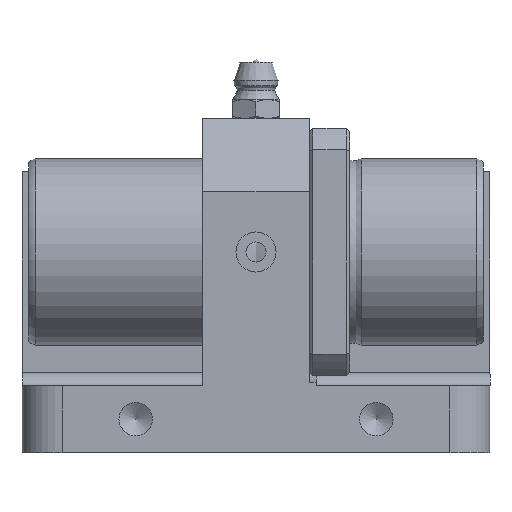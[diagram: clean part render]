
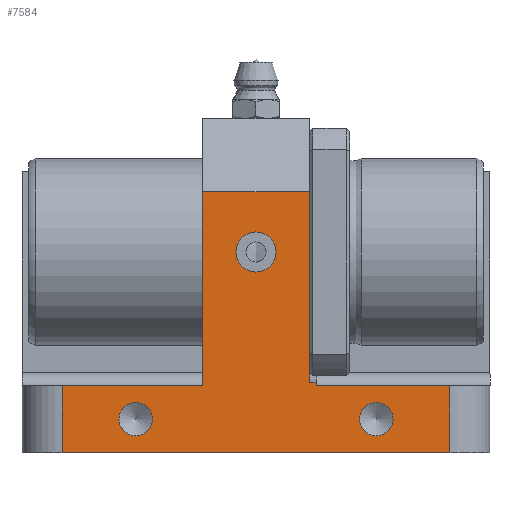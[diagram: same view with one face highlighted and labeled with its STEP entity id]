
A CAD part, front view. The second image highlights one B-rep face of the part: STEP entity #7584.
In plain terms, the highlighted planar face has unit normal (0, -1, 0).
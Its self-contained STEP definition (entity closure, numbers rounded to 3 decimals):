
#7438=CARTESIAN_POINT('',(64.0,-57.,10.0));
#7439=VERTEX_POINT('',#7438);
#7447=CARTESIAN_POINT('',(64.0,-57.,0.0));
#7448=VERTEX_POINT('',#7447);
#7449=CARTESIAN_POINT('',(64.0,-57.,10.0));
#7450=DIRECTION('',(0.0,0.0,-1.0));
#7451=VECTOR('',#7450,10.0);
#7452=LINE('',#7449,#7451);
#7453=EDGE_CURVE('',#7439,#7448,#7452,.T.);
#7473=CARTESIAN_POINT('',(70.0,-57.,0.0));
#7474=DIRECTION('',(0.0,-1.0,0.0));
#7475=DIRECTION('',(0.0,0.0,-1.0));
#7476=AXIS2_PLACEMENT_3D('',#7473,#7474,#7475);
#7477=PLANE('',#7476);
#7478=ORIENTED_EDGE('',*,*,#7453,.F.);
#7479=CARTESIAN_POINT('',(44.,-57.,10.0));
#7480=VERTEX_POINT('',#7479);
#7481=CARTESIAN_POINT('',(64.0,-57.,10.0));
#7482=DIRECTION('',(-1.0,0.0,0.0));
#7483=VECTOR('',#7482,20.);
#7484=LINE('',#7481,#7483);
#7485=EDGE_CURVE('',#7439,#7480,#7484,.T.);
#7486=ORIENTED_EDGE('',*,*,#7485,.T.);
#7487=CARTESIAN_POINT('',(44.,-57.,10.5));
#7488=VERTEX_POINT('',#7487);
#7489=CARTESIAN_POINT('',(44.,-57.,10.0));
#7490=DIRECTION('',(0.0,0.0,1.0));
#7491=VECTOR('',#7490,0.5);
#7492=LINE('',#7489,#7491);
#7493=EDGE_CURVE('',#7480,#7488,#7492,.T.);
#7494=ORIENTED_EDGE('',*,*,#7493,.T.);
#7495=CARTESIAN_POINT('',(43.0,-57.,10.5));
#7496=VERTEX_POINT('',#7495);
#7497=CARTESIAN_POINT('',(43.0,-57.,10.5));
#7498=DIRECTION('',(1.0,0.0,0.0));
#7499=VECTOR('',#7498,1.);
#7500=LINE('',#7497,#7499);
#7501=EDGE_CURVE('',#7496,#7488,#7500,.T.);
#7502=ORIENTED_EDGE('',*,*,#7501,.F.);
#7503=CARTESIAN_POINT('',(43.,-57.,39.0));
#7504=VERTEX_POINT('',#7503);
#7505=CARTESIAN_POINT('',(43.0,-57.,10.5));
#7506=DIRECTION('',(0.0,0.0,1.0));
#7507=VECTOR('',#7506,28.5);
#7508=LINE('',#7505,#7507);
#7509=EDGE_CURVE('',#7496,#7504,#7508,.T.);
#7510=ORIENTED_EDGE('',*,*,#7509,.T.);
#7511=CARTESIAN_POINT('',(27.,-57.0,39.0));
#7512=VERTEX_POINT('',#7511);
#7513=CARTESIAN_POINT('',(27.,-57.0,39.0));
#7514=DIRECTION('',(1.0,0.0,0.0));
#7515=VECTOR('',#7514,16.);
#7516=LINE('',#7513,#7515);
#7517=EDGE_CURVE('',#7512,#7504,#7516,.T.);
#7518=ORIENTED_EDGE('',*,*,#7517,.F.);
#7519=CARTESIAN_POINT('',(27.,-57.,10.0));
#7520=VERTEX_POINT('',#7519);
#7521=CARTESIAN_POINT('',(27.,-57.0,39.0));
#7522=DIRECTION('',(0.0,0.0,-1.0));
#7523=VECTOR('',#7522,29.0);
#7524=LINE('',#7521,#7523);
#7525=EDGE_CURVE('',#7512,#7520,#7524,.T.);
#7526=ORIENTED_EDGE('',*,*,#7525,.T.);
#7527=CARTESIAN_POINT('',(6.,-57.0,10.0));
#7528=VERTEX_POINT('',#7527);
#7529=CARTESIAN_POINT('',(27.,-57.,10.0));
#7530=DIRECTION('',(-1.0,0.0,0.0));
#7531=VECTOR('',#7530,21.);
#7532=LINE('',#7529,#7531);
#7533=EDGE_CURVE('',#7520,#7528,#7532,.T.);
#7534=ORIENTED_EDGE('',*,*,#7533,.T.);
#7535=CARTESIAN_POINT('',(6.,-57.0,0.0));
#7536=VERTEX_POINT('',#7535);
#7537=CARTESIAN_POINT('',(6.,-57.0,0.0));
#7538=DIRECTION('',(0.0,0.0,1.0));
#7539=VECTOR('',#7538,10.0);
#7540=LINE('',#7537,#7539);
#7541=EDGE_CURVE('',#7536,#7528,#7540,.T.);
#7542=ORIENTED_EDGE('',*,*,#7541,.F.);
#7543=CARTESIAN_POINT('',(6.,-57.0,0.0));
#7544=DIRECTION('',(1.0,0.0,0.0));
#7545=VECTOR('',#7544,58.);
#7546=LINE('',#7543,#7545);
#7547=EDGE_CURVE('',#7536,#7448,#7546,.T.);
#7548=ORIENTED_EDGE('',*,*,#7547,.T.);
#7549=EDGE_LOOP('',(#7478,#7486,#7494,#7502,#7510,#7518,#7526,#7534,#7542,#7548));
#7550=FACE_OUTER_BOUND('',#7549,.T.);
#7551=CARTESIAN_POINT('',(55.5,-57.,5.));
#7552=VERTEX_POINT('',#7551);
#7553=CARTESIAN_POINT('',(53.,-57.,5.));
#7554=DIRECTION('',(0.0,1.0,0.0));
#7555=DIRECTION('',(1.0,0.0,0.0));
#7556=AXIS2_PLACEMENT_3D('',#7553,#7554,#7555);
#7557=CIRCLE('',#7556,2.5);
#7558=EDGE_CURVE('',#7552,#7552,#7557,.T.);
#7559=ORIENTED_EDGE('',*,*,#7558,.T.);
#7560=EDGE_LOOP('',(#7559));
#7561=FACE_BOUND('',#7560,.T.);
#7562=CARTESIAN_POINT('',(19.5,-57.0,5.));
#7563=VERTEX_POINT('',#7562);
#7564=CARTESIAN_POINT('',(17.,-57.0,5.));
#7565=DIRECTION('',(0.0,1.0,0.0));
#7566=DIRECTION('',(1.0,0.0,0.0));
#7567=AXIS2_PLACEMENT_3D('',#7564,#7565,#7566);
#7568=CIRCLE('',#7567,2.5);
#7569=EDGE_CURVE('',#7563,#7563,#7568,.T.);
#7570=ORIENTED_EDGE('',*,*,#7569,.T.);
#7571=EDGE_LOOP('',(#7570));
#7572=FACE_BOUND('',#7571,.T.);
#7573=CARTESIAN_POINT('',(38.0,-57.0,30.));
#7574=VERTEX_POINT('',#7573);
#7575=CARTESIAN_POINT('',(35.,-57.,30.));
#7576=DIRECTION('',(0.0,1.0,0.0));
#7577=DIRECTION('',(1.0,0.0,0.0));
#7578=AXIS2_PLACEMENT_3D('',#7575,#7576,#7577);
#7579=CIRCLE('',#7578,3.);
#7580=EDGE_CURVE('',#7574,#7574,#7579,.T.);
#7581=ORIENTED_EDGE('',*,*,#7580,.T.);
#7582=EDGE_LOOP('',(#7581));
#7583=FACE_BOUND('',#7582,.T.);
#7584=ADVANCED_FACE('',(#7550,#7561,#7572,#7583),#7477,.T.);
